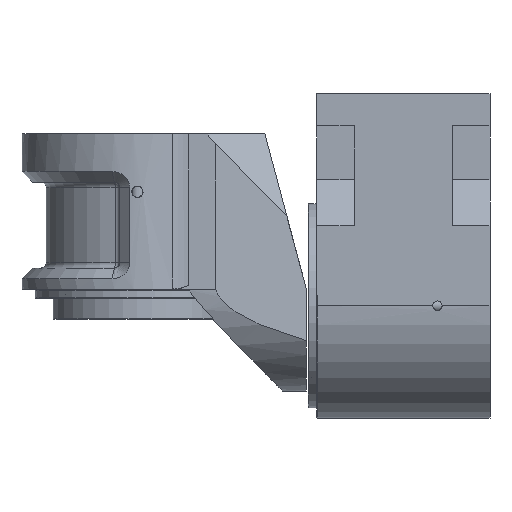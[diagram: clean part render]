
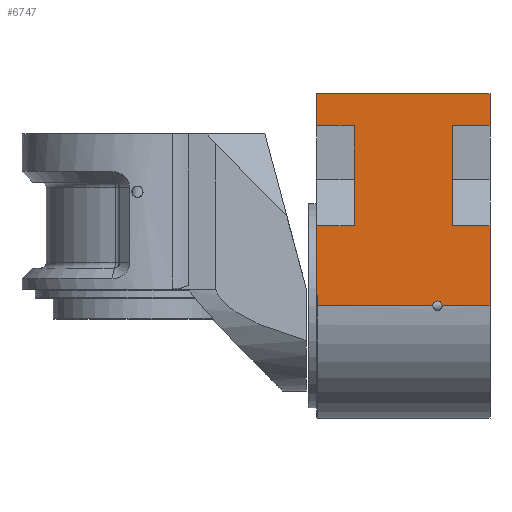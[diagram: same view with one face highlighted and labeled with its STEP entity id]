
A CAD part, left-side view. The second image highlights one B-rep face of the part: STEP entity #6747.
In plain terms, the highlighted planar face has unit normal (-1, 0, 0).
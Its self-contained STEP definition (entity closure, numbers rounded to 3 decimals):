
#67 = DIRECTION ( 'NONE',  ( 0., -1., 0. ) ) ;
#122 = EDGE_CURVE ( 'NONE', #3328, #3470, #6901, .T. ) ;
#255 = DIRECTION ( 'NONE',  ( 0., -1., 0. ) ) ;
#359 = DIRECTION ( 'NONE',  ( 0., 0., -1. ) ) ;
#372 = VECTOR ( 'NONE', #67, 1000. ) ;
#593 = DIRECTION ( 'NONE',  ( 0., 1., 0. ) ) ;
#644 = ORIENTED_EDGE ( 'NONE', *, *, #5695, .T. ) ;
#707 = ORIENTED_EDGE ( 'NONE', *, *, #11828, .F. ) ;
#776 = DIRECTION ( 'NONE',  ( 0., -1., 0. ) ) ;
#875 = DIRECTION ( 'NONE',  ( 0., 0., -1. ) ) ;
#889 = EDGE_CURVE ( 'NONE', #11022, #3328, #9084, .T. ) ;
#939 = LINE ( 'NONE', #6360, #2191 ) ;
#942 = LINE ( 'NONE', #12593, #12961 ) ;
#957 = CARTESIAN_POINT ( 'NONE',  ( -210., 323., 335. ) ) ;
#1298 = VECTOR ( 'NONE', #593, 1000. ) ;
#1353 = EDGE_CURVE ( 'NONE', #2149, #12767, #942, .T. ) ;
#1419 = CARTESIAN_POINT ( 'NONE',  ( -210., 323., 0. ) ) ;
#1461 = CIRCLE ( 'NONE', #12215, 8.75 ) ;
#1474 = VERTEX_POINT ( 'NONE', #5308 ) ;
#1587 = DIRECTION ( 'NONE',  ( 0., -1., 0. ) ) ;
#1637 = ORIENTED_EDGE ( 'NONE', *, *, #11516, .T. ) ;
#1806 = CARTESIAN_POINT ( 'NONE',  ( -210., 323., 149.305 ) ) ;
#1827 = LINE ( 'NONE', #10463, #9698 ) ;
#1946 = VECTOR ( 'NONE', #2461, 1000. ) ;
#2084 = CARTESIAN_POINT ( 'NONE',  ( -210., 323., 395. ) ) ;
#2149 = VERTEX_POINT ( 'NONE', #2991 ) ;
#2191 = VECTOR ( 'NONE', #10492, 1000. ) ;
#2285 = EDGE_CURVE ( 'NONE', #10086, #1474, #3343, .T. ) ;
#2429 = CARTESIAN_POINT ( 'NONE',  ( -210., 899.563, 149.305 ) ) ;
#2461 = DIRECTION ( 'NONE',  ( 0., 1., 0. ) ) ;
#2719 = VERTEX_POINT ( 'NONE', #5991 ) ;
#2763 = CARTESIAN_POINT ( 'NONE',  ( -210., 0., 395. ) ) ;
#2782 = ORIENTED_EDGE ( 'NONE', *, *, #12111, .F. ) ;
#2991 = CARTESIAN_POINT ( 'NONE',  ( -210., 70., 335. ) ) ;
#3126 = DIRECTION ( 'NONE',  ( 0., 0., 1. ) ) ;
#3197 = CARTESIAN_POINT ( 'NONE',  ( -210., 323., 0. ) ) ;
#3201 = CARTESIAN_POINT ( 'NONE',  ( -210., 899.563, 0. ) ) ;
#3283 = CARTESIAN_POINT ( 'NONE',  ( -210., 0., 149.305 ) ) ;
#3303 = VECTOR ( 'NONE', #7401, 1000. ) ;
#3328 = VERTEX_POINT ( 'NONE', #1806 ) ;
#3343 = LINE ( 'NONE', #3201, #13459 ) ;
#3470 = VERTEX_POINT ( 'NONE', #3197 ) ;
#3524 = CARTESIAN_POINT ( 'NONE',  ( -210., 253., 149.305 ) ) ;
#3583 = ORIENTED_EDGE ( 'NONE', *, *, #1353, .F. ) ;
#3676 = ORIENTED_EDGE ( 'NONE', *, *, #122, .T. ) ;
#3677 = ORIENTED_EDGE ( 'NONE', *, *, #11117, .T. ) ;
#4111 = LINE ( 'NONE', #10441, #5549 ) ;
#4175 = VERTEX_POINT ( 'NONE', #7285 ) ;
#4271 = CARTESIAN_POINT ( 'NONE',  ( -210., 323., 0. ) ) ;
#4462 = ORIENTED_EDGE ( 'NONE', *, *, #8453, .F. ) ;
#4561 = DIRECTION ( 'NONE',  ( 0., 0., 1. ) ) ;
#4565 = VECTOR ( 'NONE', #255, 1000. ) ;
#4768 = ORIENTED_EDGE ( 'NONE', *, *, #9200, .F. ) ;
#4772 = ORIENTED_EDGE ( 'NONE', *, *, #10660, .T. ) ;
#4952 = EDGE_CURVE ( 'NONE', #11767, #11322, #1827, .T. ) ;
#5308 = CARTESIAN_POINT ( 'NONE',  ( -210., 106.75, 0. ) ) ;
#5532 = DIRECTION ( 'NONE',  ( 0., -1., 0. ) ) ;
#5549 = VECTOR ( 'NONE', #3126, 1000. ) ;
#5616 = DIRECTION ( 'NONE',  ( -1., 0., 0. ) ) ;
#5695 = EDGE_CURVE ( 'NONE', #3470, #10086, #13112, .T. ) ;
#5991 = CARTESIAN_POINT ( 'NONE',  ( -210., 0., 0. ) ) ;
#6360 = CARTESIAN_POINT ( 'NONE',  ( -210., 899.563, 395. ) ) ;
#6747 = ADVANCED_FACE ( 'NONE', ( #8356 ), #10545, .F. ) ;
#6773 = LINE ( 'NONE', #11114, #13609 ) ;
#6880 = CARTESIAN_POINT ( 'NONE',  ( -210., 98., 0. ) ) ;
#6901 = LINE ( 'NONE', #1419, #7359 ) ;
#7114 = DIRECTION ( 'NONE',  ( 1., 0., 0. ) ) ;
#7217 = CARTESIAN_POINT ( 'NONE',  ( -210., 899.563, 335. ) ) ;
#7285 = CARTESIAN_POINT ( 'NONE',  ( -210., 89.25, 0. ) ) ;
#7359 = VECTOR ( 'NONE', #359, 1000. ) ;
#7401 = DIRECTION ( 'NONE',  ( 0., 0., 1. ) ) ;
#7540 = CARTESIAN_POINT ( 'NONE',  ( -210., 0., 335. ) ) ;
#7656 = CARTESIAN_POINT ( 'NONE',  ( -210., 899.563, 0. ) ) ;
#7904 = CARTESIAN_POINT ( 'NONE',  ( -210., 899.563, 149.305 ) ) ;
#8127 = ORIENTED_EDGE ( 'NONE', *, *, #4952, .T. ) ;
#8152 = DIRECTION ( 'NONE',  ( 0., 0., -1. ) ) ;
#8351 = VERTEX_POINT ( 'NONE', #3283 ) ;
#8356 = FACE_OUTER_BOUND ( 'NONE', #11354, .T. ) ;
#8453 = EDGE_CURVE ( 'NONE', #12767, #8351, #13185, .T. ) ;
#8552 = DIRECTION ( 'NONE',  ( 0., 0., -1. ) ) ;
#8558 = CARTESIAN_POINT ( 'NONE',  ( -210., 322., 0. ) ) ;
#9084 = LINE ( 'NONE', #2429, #1298 ) ;
#9200 = EDGE_CURVE ( 'NONE', #4175, #1474, #1461, .T. ) ;
#9362 = CARTESIAN_POINT ( 'NONE',  ( -210., 0., 0. ) ) ;
#9698 = VECTOR ( 'NONE', #776, 1000. ) ;
#9742 = VECTOR ( 'NONE', #1587, 1000. ) ;
#9844 = CARTESIAN_POINT ( 'NONE',  ( -210., 253., 335. ) ) ;
#9853 = ORIENTED_EDGE ( 'NONE', *, *, #12137, .T. ) ;
#9883 = CARTESIAN_POINT ( 'NONE',  ( -210., 899.563, 0. ) ) ;
#10086 = VERTEX_POINT ( 'NONE', #8558 ) ;
#10088 = ORIENTED_EDGE ( 'NONE', *, *, #2285, .T. ) ;
#10441 = CARTESIAN_POINT ( 'NONE',  ( -210., 253., 0. ) ) ;
#10463 = CARTESIAN_POINT ( 'NONE',  ( -210., 899.563, 335. ) ) ;
#10492 = DIRECTION ( 'NONE',  ( 0., -1., 0. ) ) ;
#10545 = PLANE ( 'NONE',  #11312 ) ;
#10660 = EDGE_CURVE ( 'NONE', #10701, #11767, #13905, .T. ) ;
#10701 = VERTEX_POINT ( 'NONE', #2084 ) ;
#10828 = LINE ( 'NONE', #7656, #372 ) ;
#10899 = LINE ( 'NONE', #7217, #1946 ) ;
#11022 = VERTEX_POINT ( 'NONE', #3524 ) ;
#11056 = VERTEX_POINT ( 'NONE', #7540 ) ;
#11114 = CARTESIAN_POINT ( 'NONE',  ( -210., 0., 0. ) ) ;
#11117 = EDGE_CURVE ( 'NONE', #11056, #12973, #6773, .T. ) ;
#11312 = AXIS2_PLACEMENT_3D ( 'NONE', #11599, #7114, #8152 ) ;
#11322 = VERTEX_POINT ( 'NONE', #9844 ) ;
#11354 = EDGE_LOOP ( 'NONE', ( #10088, #4768, #1637, #9853, #4462, #3583, #11521, #3677, #2782, #4772, #8127, #707, #12041, #3676, #644 ) ) ;
#11516 = EDGE_CURVE ( 'NONE', #4175, #2719, #10828, .T. ) ;
#11521 = ORIENTED_EDGE ( 'NONE', *, *, #11535, .F. ) ;
#11535 = EDGE_CURVE ( 'NONE', #11056, #2149, #10899, .T. ) ;
#11599 = CARTESIAN_POINT ( 'NONE',  ( -210., 899.563, 0. ) ) ;
#11614 = LINE ( 'NONE', #9362, #3303 ) ;
#11767 = VERTEX_POINT ( 'NONE', #957 ) ;
#11828 = EDGE_CURVE ( 'NONE', #11022, #11322, #4111, .T. ) ;
#12041 = ORIENTED_EDGE ( 'NONE', *, *, #889, .T. ) ;
#12086 = CARTESIAN_POINT ( 'NONE',  ( -210., 70., 149.305 ) ) ;
#12111 = EDGE_CURVE ( 'NONE', #10701, #12973, #939, .T. ) ;
#12137 = EDGE_CURVE ( 'NONE', #2719, #8351, #11614, .T. ) ;
#12215 = AXIS2_PLACEMENT_3D ( 'NONE', #6880, #5616, #4561 ) ;
#12593 = CARTESIAN_POINT ( 'NONE',  ( -210., 70., 0. ) ) ;
#12695 = VECTOR ( 'NONE', #8552, 1000. ) ;
#12767 = VERTEX_POINT ( 'NONE', #12086 ) ;
#12961 = VECTOR ( 'NONE', #875, 1000. ) ;
#12973 = VERTEX_POINT ( 'NONE', #2763 ) ;
#13112 = LINE ( 'NONE', #9883, #4565 ) ;
#13185 = LINE ( 'NONE', #7904, #9742 ) ;
#13280 = DIRECTION ( 'NONE',  ( 0., 0., 1. ) ) ;
#13459 = VECTOR ( 'NONE', #5532, 1000. ) ;
#13609 = VECTOR ( 'NONE', #13280, 1000. ) ;
#13905 = LINE ( 'NONE', #4271, #12695 ) ;
